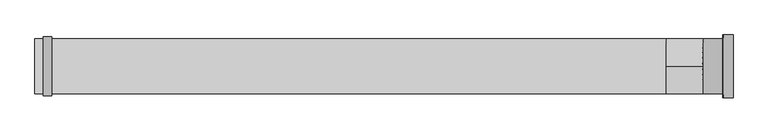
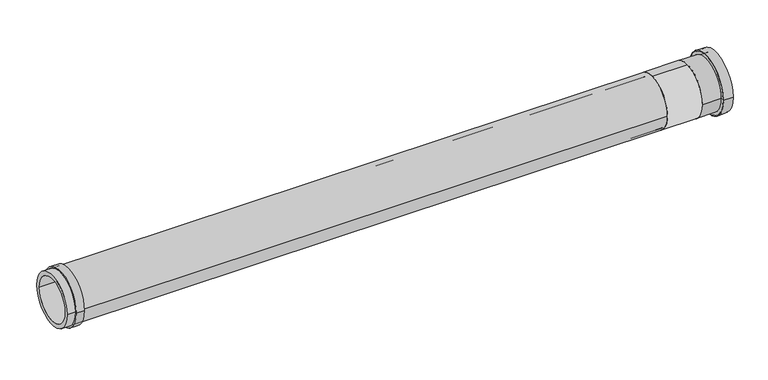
"""IFC4 building model written with IfcOpenShell, lengths in millimetres: pipe fitting geometry, NLRS-90-PIF_Wavin PVC Buitenriolering Wavinflex : 125-110."""

from ifc_helpers import new_model, si_unit, point, frame, origin, origin_2d, place, context, project, spatial, polyline, circle_curve, ellipse_curve, trimmed, segment, composite_curve, outline, extrude, source, transform, mapped, element, save
from ifc_brep_helpers import plane_surface, cylinder_surface, revolved_surface, advanced_brep


def pipe_fitting_7d9cd8cc(model_context):
    return source(origin(), model_context, "Body", "SolidModel", [
        advanced_brep(
        [(47.5, -65.7, 0.0), (47.5, 65.7, 0.0), (46.5, 65.7, 0.0), (46.5, -65.7, 0.0), (47.5, -73.5, 0.0), (47.5, 73.5, 0.0), (71.0, -73.5, 0.0), (71.0, 73.5, 0.0), (71.0, -74.5, 0.0), (71.0, 74.5, 0.0), (47.5268321, -74.5, 0.0), (47.5268321, 74.5, 0.0), (46.5, 73.4731679, 0.0), (46.5, -73.4731679, 0.0)],
        [
            (0, 1, circle_curve(frame((47.5, 0.0, 0.0), z_axis=(1.0, 0.0, 0.0), x_axis=(0.0, 1.0, 0.0)), 65.7)),
            (1, 2),
            (2, 3, circle_curve(frame((46.5, 0.0, 0.0), z_axis=(-1.0, 0.0, 0.0), x_axis=(0.0, 1.0, 0.0)), 65.7)),
            (3, 0),
            (1, 0, circle_curve(frame((47.5, 0.0, 0.0), z_axis=(1.0, 0.0, 0.0), x_axis=(0.0, 1.0, 0.0)), 65.7)),
            (3, 2, circle_curve(frame((46.5, 0.0, 0.0), z_axis=(-1.0, 0.0, 0.0), x_axis=(0.0, 1.0, 0.0)), 65.7)),
            (4, 5, circle_curve(frame((47.5, 0.0, 0.0), z_axis=(1.0, 0.0, 0.0), x_axis=(0.0, 1.0, 0.0)), 73.5)),
            (5, 1),
            (0, 4),
            (5, 4, circle_curve(frame((47.5, 0.0, 0.0), z_axis=(1.0, 0.0, 0.0), x_axis=(0.0, 1.0, 0.0)), 73.5)),
            (6, 7, circle_curve(frame((71.0, 0.0, 0.0), z_axis=(1.0, 0.0, 0.0), x_axis=(0.0, 1.0, 0.0)), 73.5)),
            (7, 5),
            (4, 6),
            (7, 6, circle_curve(frame((71.0, 0.0, 0.0), z_axis=(1.0, 0.0, 0.0), x_axis=(0.0, 1.0, 0.0)), 73.5)),
            (8, 9, circle_curve(frame((71.0, 0.0, 0.0), z_axis=(1.0, 0.0, 0.0), x_axis=(0.0, 1.0, 0.0)), 74.5)),
            (9, 7),
            (6, 8),
            (9, 8, circle_curve(frame((71.0, 0.0, 0.0), z_axis=(1.0, 0.0, 0.0), x_axis=(0.0, 1.0, 0.0)), 74.5)),
            (10, 11, circle_curve(frame((47.5268321, 0.0, 0.0), z_axis=(1.0, 0.0, 0.0), x_axis=(0.0, 1.0, 0.0)), 74.5)),
            (11, 9),
            (8, 10),
            (11, 10, circle_curve(frame((47.5268321, 0.0, 0.0), z_axis=(1.0, 0.0, 0.0), x_axis=(0.0, 1.0, 0.0)), 74.5)),
            (2, 12),
            (12, 13, circle_curve(frame((46.5, 0.0, 0.0), z_axis=(-1.0, 0.0, 0.0), x_axis=(0.0, 1.0, 0.0)), 73.4731679)),
            (13, 3),
            (13, 12, circle_curve(frame((46.5, 0.0, 0.0), z_axis=(-1.0, 0.0, 0.0), x_axis=(0.0, 1.0, 0.0)), 73.4731679)),
            (12, 11, circle_curve(frame((47.5268321, 73.4731679, 0.0), z_axis=(0.0, 0.0, -1.0), x_axis=(1.0, 0.0, 0.0)), 1.0268321)),
            (10, 13, circle_curve(frame((47.5268321, -73.4731679, 0.0), z_axis=(0.0, 0.0, -1.0), x_axis=(1.0, 0.0, 0.0)), 1.0268321)),
        ],
        [
            revolved_surface(polyline([(46.5, 65.7, 0.0), (47.5, 65.7, 0.0)]), (1846.0, 0.0, 0.0), (-1.0, 0.0, 0.0)),
            plane_surface(frame((47.5, 0.0, 0.0), z_axis=(1.0, 0.0, 0.0), x_axis=(0.0, 1.0, 0.0))),
            revolved_surface(polyline([(47.5, 73.5, 0.0), (71.0, 73.5, 0.0)]), (1846.0, 0.0, 0.0), (-1.0, 0.0, 0.0)),
            plane_surface(frame((71.0, 0.0, 0.0), z_axis=(1.0, 0.0, 0.0), x_axis=(0.0, 1.0, 0.0))),
            cylinder_surface(frame((1846.0, 0.0, 0.0), z_axis=(-1.0, 0.0, 0.0), x_axis=(0.0, 1.0, 0.0)), 74.5),
            plane_surface(frame((46.5, 0.0, 0.0), z_axis=(-1.0, 0.0, 0.0), x_axis=(0.0, 1.0, 0.0))),
            revolved_surface(trimmed(ellipse_curve(frame((47.5268321, 73.4731679, 0.0), z_axis=(0.0, 0.0, 1.0), x_axis=(1.0, 0.0, 0.0)), 1.0268321, 1.0268321), [point((47.5268321, 74.5, 0.0))], [point((46.5, 73.4731679, 0.0))], True, "CARTESIAN"), (1846.0, 0.0, 0.0), (-1.0, 0.0, 0.0)),
        ],
        [
            (0, [[1, 2, 3, 4]]),
            (0, [[5, -4, 6, -2]]),
            (1, [[7, 8, -1, 9]]),
            (1, [[10, -9, -5, -8]]),
            (2, [[11, 12, -7, 13]]),
            (2, [[14, -13, -10, -12]]),
            (3, [[15, 16, -11, 17]]),
            (3, [[18, -17, -14, -16]]),
            (4, [[19, 20, -15, 21]]),
            (4, [[22, -21, -18, -20]]),
            (5, [[-3, 23, 24, 25]]),
            (5, [[-6, -25, 26, -23]]),
            (6, [[-24, 27, -19, 28]]),
            (6, [[-26, -28, -22, -27]]),
        ],
    ),
        advanced_brep(
        [(71.0, -62.5, 0.0), (71.0, 62.5, 0.0), (-5.5425626, 62.5, 0.0), (-5.5425626, -62.5, 0.0), (71.0, -73.5, 0.0), (71.0, 73.5, 0.0), (47.5, -73.5, 0.0), (47.5, 73.5, 0.0), (47.5, -65.7, 0.0), (47.5, 65.7, 0.0), (0.0, -65.7, 0.0), (0.0, 65.7, 0.0)],
        [
            (0, 1, circle_curve(frame((71.0, 0.0, 0.0), z_axis=(1.0, 0.0, 0.0), x_axis=(0.0, 1.0, 0.0)), 62.5)),
            (1, 2),
            (2, 3, circle_curve(frame((-5.5425626, 0.0, 0.0), z_axis=(-1.0, 0.0, 0.0), x_axis=(0.0, 1.0, 0.0)), 62.5)),
            (3, 0),
            (1, 0, circle_curve(frame((71.0, 0.0, 0.0), z_axis=(1.0, 0.0, 0.0), x_axis=(0.0, 1.0, 0.0)), 62.5)),
            (3, 2, circle_curve(frame((-5.5425626, 0.0, 0.0), z_axis=(-1.0, 0.0, 0.0), x_axis=(0.0, 1.0, 0.0)), 62.5)),
            (4, 5, circle_curve(frame((71.0, 0.0, 0.0), z_axis=(1.0, 0.0, 0.0), x_axis=(0.0, 1.0, 0.0)), 73.5)),
            (5, 1),
            (0, 4),
            (5, 4, circle_curve(frame((71.0, 0.0, 0.0), z_axis=(1.0, 0.0, 0.0), x_axis=(0.0, 1.0, 0.0)), 73.5)),
            (6, 7, circle_curve(frame((47.5, 0.0, 0.0), z_axis=(1.0, 0.0, 0.0), x_axis=(0.0, 1.0, 0.0)), 73.5)),
            (7, 5),
            (4, 6),
            (7, 6, circle_curve(frame((47.5, 0.0, 0.0), z_axis=(1.0, 0.0, 0.0), x_axis=(0.0, 1.0, 0.0)), 73.5)),
            (8, 9, circle_curve(frame((47.5, 0.0, 0.0), z_axis=(1.0, 0.0, 0.0), x_axis=(0.0, 1.0, 0.0)), 65.7)),
            (9, 7),
            (6, 8),
            (9, 8, circle_curve(frame((47.5, 0.0, 0.0), z_axis=(1.0, 0.0, 0.0), x_axis=(0.0, 1.0, 0.0)), 65.7)),
            (10, 11, circle_curve(frame((0.0, 0.0, 0.0), z_axis=(1.0, 0.0, 0.0), x_axis=(0.0, 1.0, 0.0)), 65.7)),
            (11, 9),
            (8, 10),
            (11, 10, circle_curve(frame((0.0, 0.0, 0.0), z_axis=(1.0, 0.0, 0.0), x_axis=(0.0, 1.0, 0.0)), 65.7)),
            (2, 11),
            (10, 3),
        ],
        [
            revolved_surface(polyline([(-5.542562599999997, 62.5, 0.0), (70.99999999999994, 62.5, 0.0)]), (-478.9400222, 0.0, 0.0), (-1.0, 0.0, 0.0)),
            plane_surface(frame((71.0, 0.0, 0.0), z_axis=(1.0, 0.0, 0.0), x_axis=(0.0, 1.0, 0.0))),
            cylinder_surface(frame((-478.9400222, 0.0, 0.0), z_axis=(-1.0, 0.0, 0.0), x_axis=(0.0, 1.0, 0.0)), 73.5),
            plane_surface(frame((47.5, 0.0, 0.0), z_axis=(-1.0, 0.0, 0.0), x_axis=(0.0, 1.0, 0.0))),
            cylinder_surface(frame((-478.9400222, 0.0, 0.0), z_axis=(-1.0, 0.0, 0.0), x_axis=(0.0, 1.0, 0.0)), 65.7),
            revolved_surface(polyline([(0.0, 65.7, 0.0), (-5.5425626, 62.5, 0.0)]), (-478.9400222, 0.0, 0.0), (-1.0, 0.0, 0.0)),
        ],
        [
            (0, [[1, 2, 3, 4]]),
            (0, [[5, -4, 6, -2]]),
            (1, [[7, 8, -1, 9]]),
            (1, [[10, -9, -5, -8]]),
            (2, [[11, 12, -7, 13]]),
            (2, [[14, -13, -10, -12]]),
            (3, [[15, 16, -11, 17]]),
            (3, [[18, -17, -14, -16]]),
            (4, [[19, 20, -15, 21]]),
            (4, [[22, -21, -18, -20]]),
            (5, [[-3, 23, -19, 24]]),
            (5, [[-6, -24, -22, -23]]),
        ],
    ),
        extrude(outline(composite_curve([segment(trimmed(circle_curve(origin_2d(), 65.7), [point((0.0, -65.7))], [point((0.0, 65.7))], False, "CARTESIAN"), True, "CONTINUOUS"), segment(trimmed(circle_curve(origin_2d(), 65.7), [point((0.0, 65.7))], [point((0.0, -65.7))], False, "CARTESIAN"), True, "CONTINUOUS")], self_intersect=False)), frame((-88.0, 0.0, 0.0), z_axis=(1.0, 0.0, 0.0), x_axis=(0.0, 1.0, 0.0)), (0.0, 0.0, 1.0), 88.0),
        extrude(outline(composite_curve([segment(trimmed(circle_curve(origin_2d(), 62.5), [point((0.0, -62.5))], [point((0.0, 62.5))], False, "CARTESIAN"), True, "CONTINUOUS"), segment(trimmed(circle_curve(origin_2d(), 62.5), [point((0.0, 62.5))], [point((0.0, -62.5))], False, "CARTESIAN"), True, "CONTINUOUS")], self_intersect=False)), frame((-161.0, 0.0, 0.0), z_axis=(1.0, 0.0, 0.0), x_axis=(0.0, 1.0, 0.0)), (0.0, 0.0, 1.0), 73.0),
        extrude(outline(composite_curve([segment(trimmed(circle_curve(origin_2d(), 70.0), [point((70.0, 0.0))], [point((-70.0, 0.0))], False, "CARTESIAN"), True, "CONTINUOUS"), segment(trimmed(circle_curve(origin_2d(), 70.0), [point((-70.0, 0.0))], [point((70.0, 0.0))], False, "CARTESIAN"), True, "CONTINUOUS")], self_intersect=False), holes=[composite_curve([segment(trimmed(circle_curve(origin_2d(), 65.7), [point((65.7, 0.0))], [point((-65.7, 0.0))], True, "CARTESIAN"), True, "CONTINUOUS"), segment(trimmed(circle_curve(origin_2d(), 65.7), [point((-65.7, 0.0))], [point((65.7, 0.0))], True, "CARTESIAN"), True, "CONTINUOUS")], self_intersect=False)]), frame((-1568.0, 0.0, 0.0), z_axis=(1.0, 0.0, 0.0), x_axis=(0.0, 1.0, 0.0)), (0.0, 0.0, 1.0), 20.0),
        extrude(outline(composite_curve([segment(trimmed(circle_curve(origin_2d(), 65.7), [point((-65.7, 0.0))], [point((65.7, 0.0))], False, "CARTESIAN"), True, "CONTINUOUS"), segment(trimmed(circle_curve(origin_2d(), 65.7), [point((65.7, 0.0))], [point((-65.7, 0.0))], False, "CARTESIAN"), True, "CONTINUOUS")], self_intersect=False), holes=[composite_curve([segment(trimmed(circle_curve(origin_2d(), 55.0), [point((-55.0, 0.0))], [point((55.0, 0.0))], True, "CARTESIAN"), True, "CONTINUOUS"), segment(trimmed(circle_curve(origin_2d(), 55.0), [point((55.0, 0.0))], [point((-55.0, 0.0))], True, "CARTESIAN"), True, "CONTINUOUS")], self_intersect=False)]), frame((-1588.0, 0.0, 0.0), z_axis=(1.0, 0.0, 0.0), x_axis=(0.0, 1.0, 0.0)), (0.0, 0.0, 1.0), 1500.0),
    ])


if __name__ == "__main__":
    model = new_model("IFC4")
    model_context = context("Model", 3, world=origin())
    ifc_project = project(units=[si_unit("LENGTHUNIT", "METRE", prefix="MILLI")], contexts=[model_context])
    site = spatial("IfcSite", under=ifc_project)
    building = spatial("IfcBuilding", under=site)
    placement = place(None, origin())
    pipe_fitting_shape = pipe_fitting_7d9cd8cc(model_context)
    element("IfcPipeFitting", 1, ObjectType="NLRS-90-PIF_Wavin PVC Buitenriolering Wavinflex : 125-110", at=placement, inside=building, context=model_context, shape_type="MappedRepresentation", body=[
        mapped(pipe_fitting_shape, transform((0.0, 0.0, 0.0), x_axis=(1.0, 0.0, 0.0), y_axis=(0.0, 1.0, 0.0), z_axis=(0.0, 0.0, 1.0))),
    ])
    save(model, "model.ifc")
